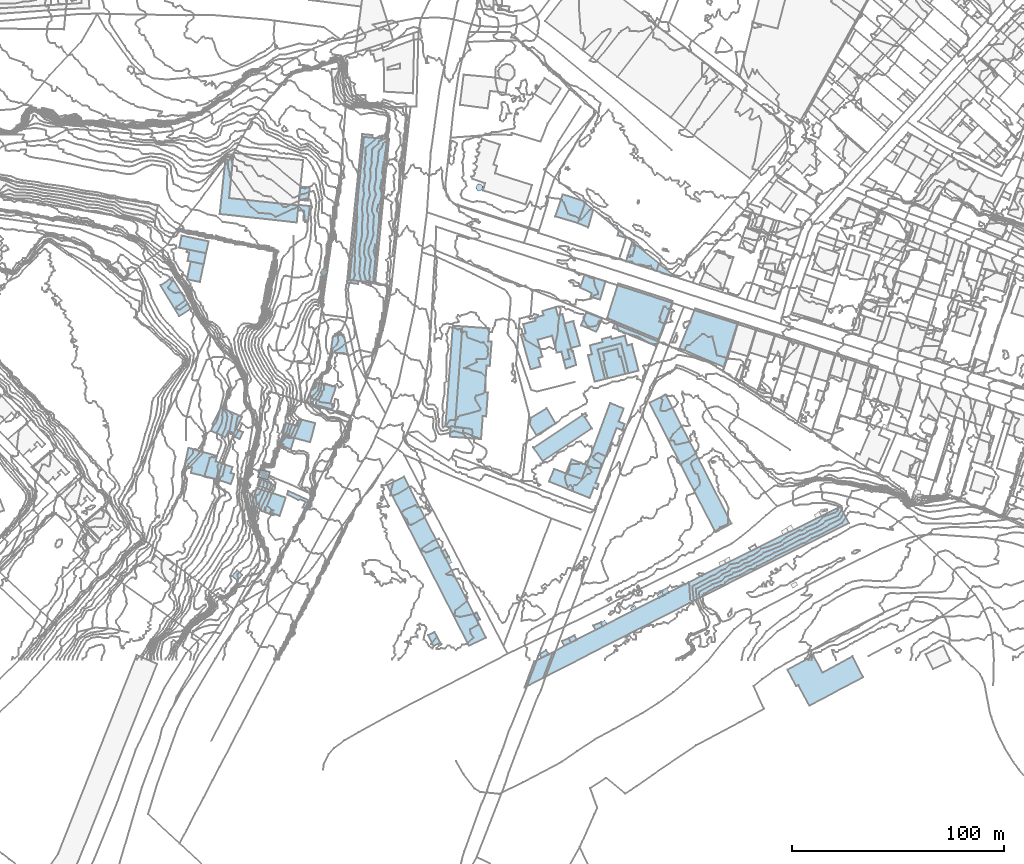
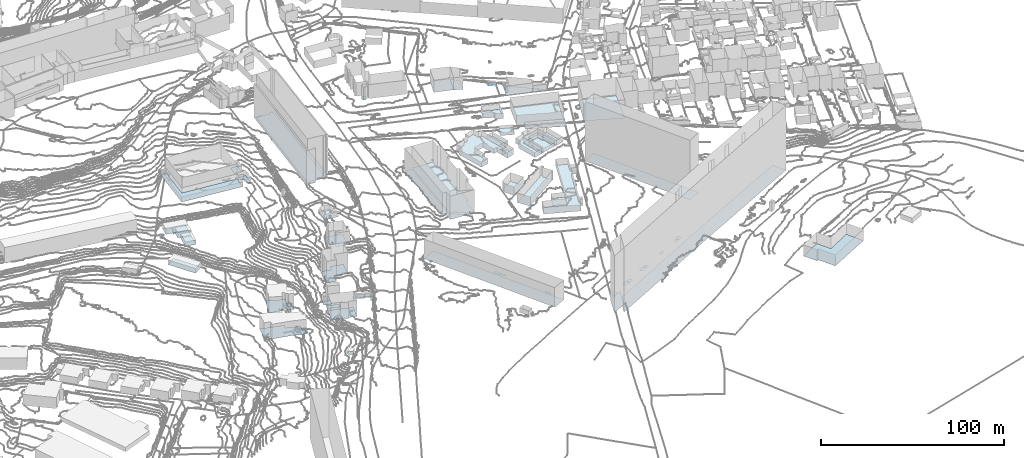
# Not in any storey, part 5 of 419: 62 footings.
"""IFC2X3 model written with IfcOpenShell, lengths in metres."""

from ifc_helpers import new_model, si_unit, frame, origin_with_axes, place, context, subcontext, project, faceted_brep, element, save


model = new_model("IFC2X3")

# Units and contexts
model_context = context("Model", 3, precision=1e-05, world=origin_with_axes())
body_context = subcontext(model_context, "Body", "Model", "MODEL_VIEW")
ifc_project = project(units=[si_unit("AREAUNIT", "SQUARE_METRE"), si_unit("LENGTHUNIT", "METRE")], contexts=[model_context])

# Footings
footing_1_placement = place(None, frame((775.4920204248, 16.0976909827, 70.1381985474), z_axis=(0.0, 0.0, 1.0), x_axis=(1.0, 0.0, 0.0)))
element("IfcFooting", 1, at=footing_1_placement, Name="Sol 0", PredefinedType="STRIP_FOOTING", context=body_context, shape_type="Brep", body=[
    faceted_brep([(3.0, -0.9000000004, 0.0), (0.7, -2.0, 0.0), (0.0, 0.0, 0.0), (1.7999999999, 1.0999999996, 0.0)], [[[0, 1, 2]], [[2, 3, 0]]]),
])
footing_2_placement = place(None, frame((766.0920204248, 156.0976909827, 75.7675977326), z_axis=(0.0, 0.0, 1.0), x_axis=(1.0, 0.0, 0.0)))
element("IfcFooting", 2, at=footing_2_placement, Name="Sol 0", PredefinedType="STRIP_FOOTING", context=body_context, shape_type="Brep", body=[
    faceted_brep([(0.0, 0.0, 0.0), (2.5, 6.0999999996, 0.0), (10.0, 3.2000000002, 0.0), (7.2, -3.0, 0.0)], [[[0, 1, 2]], [[2, 3, 0]]]),
])
footing_3_placement = place(None, frame((576.6920204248, 192.6976909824, 54.1280997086), z_axis=(0.0, 0.0, 1.0), x_axis=(1.0, 0.0, 0.0)))
element("IfcFooting", 3, at=footing_3_placement, Name="Sol 0", PredefinedType="STRIP_FOOTING", context=body_context, shape_type="Brep", body=[
    faceted_brep([(12.6, -2.5999999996, 0.0), (0.0, 0.0, 0.0), (1.1, 5.7000000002, 0.0), (13.8, 3.0, 0.0)], [[[0, 1, 2]], [[2, 3, 0]]]),
])
footing_4_placement = place(None, frame((765.6920204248, 173.8976909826, 76.811498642), z_axis=(0.0, 0.0, 1.0), x_axis=(1.0, 0.0, 0.0)))
element("IfcFooting", 4, at=footing_4_placement, Name="Sol 0", PredefinedType="STRIP_FOOTING", context=body_context, shape_type="Brep", body=[
    faceted_brep([(5.4, -2.5999999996, 0.0), (0.0, 0.0, 0.0), (2.1, 6.0999999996, 0.0), (9.4, -5.7000000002, 0.0), (5.0, -4.4000000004, 0.0), (12.0, 3.0, 0.0)], [[[0, 1, 2]], [[3, 4, 0]], [[2, 5, 3]], [[3, 0, 2]]]),
])
footing_5_placement = place(None, frame((632.5920204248, 210.3976909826, 59.9000015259), z_axis=(0.0, 0.0, 1.0), x_axis=(1.0, 0.0, 0.0)))
element("IfcFooting", 5, at=footing_5_placement, Name="Sol 0", PredefinedType="STRIP_FOOTING", context=body_context, shape_type="Brep", body=[
    faceted_brep([(0.0, 0.0, 0.0), (0.3, 2.5, 0.0), (5.7, 1.9000000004, 0.0), (4.9, -5.0, 0.0), (2.6, -4.7999999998, 0.0), (3.0, -0.2999999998, 0.0)], [[[0, 1, 2]], [[3, 4, 5]], [[5, 0, 2]], [[2, 3, 5]]]),
])
footing_6_placement = place(None, frame((757.0920204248, 7.1976909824, 70.2716003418), z_axis=(0.0, 0.0, 1.0), x_axis=(1.0, 0.0, 0.0)))
element("IfcFooting", 6, at=footing_6_placement, Name="Sol 0", PredefinedType="STRIP_FOOTING", context=body_context, shape_type="Brep", body=[
    faceted_brep([(4.3, -0.5999999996, 0.0), (1.2, -2.0999999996, 0.0), (0.0, 0.0, 0.0), (3.3, 1.4000000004, 0.0)], [[[0, 1, 2]], [[2, 3, 0]]]),
])
footing_7_placement = place(None, frame((694.0920204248, 9.9976909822, 71.9270027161), z_axis=(0.0, 0.0, 1.0), x_axis=(1.0, 0.0, 0.0)))
element("IfcFooting", 7, at=footing_7_placement, Name="Sol 0", PredefinedType="STRIP_FOOTING", context=body_context, shape_type="Brep", body=[
    faceted_brep([(5.6, -3.5, 0.0), (2.6, -5.0999999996, 0.0), (0.0, 0.0, 0.0), (3.0, 1.6000000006, 0.0)], [[[0, 1, 2]], [[2, 3, 0]]]),
])
footing_8_placement = place(None, frame((633.0920204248, 215.2976909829, 60.8579999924), z_axis=(0.0, 0.0, 1.0), x_axis=(1.0, 0.0, 0.0)))
element("IfcFooting", 8, at=footing_8_placement, Name="Sol 0", PredefinedType="STRIP_FOOTING", context=body_context, shape_type="Brep", body=[
    faceted_brep([(0.0, 0.0, 0.0), (0.7, 6.1999999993, 0.0), (5.1, 5.7999999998, 0.0), (4.4, -0.4000000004, 0.0)], [[[0, 1, 2]], [[2, 3, 0]]]),
])
footing_9_placement = place(None, frame((580.2920204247, 177.7976909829, 53.9178002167), z_axis=(0.0, 0.0, 1.0), x_axis=(1.0, 0.0, 0.0)))
element("IfcFooting", 9, at=footing_9_placement, Name="Sol 0", PredefinedType="STRIP_FOOTING", context=body_context, shape_type="Brep", body=[
    faceted_brep([(0.0, 0.0, 0.0), (1.8, 8.3999999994, 0.0), (7.9, 7.0999999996, 0.0), (6.1000000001, -1.3000000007, 0.0)], [[[0, 1, 2]], [[2, 3, 0]]]),
])
footing_10_placement = place(None, frame((580.1920204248, 190.5976909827, 54.1919986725), z_axis=(0.0, 0.0, 1.0), x_axis=(1.0, 0.0, 0.0)))
element("IfcFooting", 10, at=footing_10_placement, Name="Sol 0", PredefinedType="STRIP_FOOTING", context=body_context, shape_type="Brep", body=[
    faceted_brep([(0.0, 0.0, 0.0), (0.3, 1.2999999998, 0.0), (9.1, -0.5, 0.0), (8.0, -5.7000000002, 0.0), (0.4, -4.1000000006, 0.0), (1.2000000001, -0.2000000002, 0.0)], [[[0, 1, 2]], [[3, 4, 5]], [[5, 0, 2]], [[2, 3, 5]]]),
])
footing_11_placement = place(None, frame((627.4920204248, 76.2976909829, 64.1379997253), z_axis=(0.0, 0.0, 1.0), x_axis=(1.0, 0.0, 0.0)))
element("IfcFooting", 11, at=footing_11_placement, Name="Sol 0", PredefinedType="STRIP_FOOTING", context=body_context, shape_type="Brep", body=[
    faceted_brep([(10.7999999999, -3.0, 0.0), (8.9, -6.8000000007, 0.0), (7.4, -6.1000000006, 0.0), (0.0, 0.0, 0.0), (0.6, 1.6999999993, 0.0), (6.2, -2.3000000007, 0.0), (5.2999999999, -2.5, 0.0), (8.7, -3.4000000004, 0.0)], [[[0, 1, 2]], [[3, 4, 0]], [[5, 6, 3]], [[0, 2, 7]], [[5, 3, 0]], [[0, 7, 5]]]),
])
footing_12_placement = place(None, frame((700.3920204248, 49.5976909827, 72.1448019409), z_axis=(0.0, 0.0, 1.0), x_axis=(1.0, 0.0, 0.0)))
element("IfcFooting", 12, at=footing_12_placement, Name="Sol 0", PredefinedType="STRIP_FOOTING", context=body_context, shape_type="Brep", body=[
    faceted_brep([(1.7, -3.1000000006, 0.0), (0.0, 0.0, 0.0), (1.6, 0.7000000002, 0.0), (3.3999999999, -2.5, 0.0)], [[[0, 1, 2]], [[2, 3, 0]]]),
])
footing_13_placement = place(None, frame((773.9920204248, 144.7976909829, 75.1139984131), z_axis=(0.0, 0.0, 1.0), x_axis=(1.0, 0.0, 0.0)))
element("IfcFooting", 13, at=footing_13_placement, Name="Sol 0", PredefinedType="STRIP_FOOTING", context=body_context, shape_type="Brep", body=[
    faceted_brep([(4.7999999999, -13.6000000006, 0.0), (3.5, -14.0, 0.0), (0.0, 0.0, 0.0), (2.5, -1.4000000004, 0.0), (3.5, -5.3000000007, 0.0), (2.7, -5.5, 0.0), (11.0, -3.4000000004, 0.0), (10.2, -3.6000000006, 0.0), (9.2999999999, 0.2999999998, 0.0), (14.6, -11.2000000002, 0.0), (13.0, -11.6000000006, 0.0), (11.1, 2.7999999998, 0.0)], [[[0, 1, 2]], [[3, 4, 5]], [[6, 7, 8]], [[9, 10, 6]], [[5, 0, 2]], [[9, 6, 8]], [[3, 5, 2]], [[11, 9, 8]], [[3, 2, 11]], [[11, 8, 3]]]),
])
footing_14_placement = place(None, frame((753.9920204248, 207.4976909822, 77.5985978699), z_axis=(0.0, 0.0, 1.0), x_axis=(1.0, 0.0, 0.0)))
element("IfcFooting", 14, at=footing_14_placement, Name="Sol 0", PredefinedType="STRIP_FOOTING", context=body_context, shape_type="Brep", body=[
    faceted_brep([(0.0, 0.0, 0.0), (3.5, 10.4000000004, 0.0), (14.2, 6.8000000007, 0.0), (10.6, -3.1999999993, 0.0)], [[[0, 1, 2]], [[2, 3, 0]]]),
])
footing_15_placement = place(None, frame((787.2920204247, 186.2976909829, 76.8846023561), z_axis=(0.0, 0.0, 1.0), x_axis=(1.0, 0.0, 0.0)))
element("IfcFooting", 15, at=footing_15_placement, Name="Sol 0", PredefinedType="STRIP_FOOTING", context=body_context, shape_type="Brep", body=[
    faceted_brep([(14.4, -4.5, 0.0), (0.0, 0.0, 0.0), (0.8, 2.3999999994, 0.0), (4.6000000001, 7.8999999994, 0.0), (15.5, -1.1000000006, 0.0), (1.9, 2.0, 0.0), (2.2000000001, 3.0, 0.0), (3.1000000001, 2.5999999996, 0.0)], [[[0, 1, 2]], [[3, 4, 0]], [[5, 6, 7]], [[0, 2, 5]], [[7, 3, 0]], [[0, 5, 7]]]),
])
footing_16_placement = place(None, frame((579.1920204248, 89.7976909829, 46.9288002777), z_axis=(0.0, 0.0, 1.0), x_axis=(1.0, 0.0, 0.0)))
element("IfcFooting", 16, at=footing_16_placement, Name="Sol 0", PredefinedType="STRIP_FOOTING", context=body_context, shape_type="Brep", body=[
    faceted_brep([(14.2000000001, -6.0, 0.0), (3.0, -3.3000000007, 0.0), (3.5, -0.8000000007, 0.0), (23.4, -3.9000000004, 0.0), (21.8, -8.6000000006, 0.0), (14.6, 2.1999999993, 0.0), (22.6, -0.6000000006, 0.0), (21.7000000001, -3.3000000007, 0.0), (1.8, 8.5, 0.0), (15.3, 4.6999999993, 0.0), (0.0, 0.0, 0.0)], [[[0, 1, 2]], [[3, 4, 0]], [[5, 6, 7]], [[8, 9, 5]], [[2, 10, 8]], [[3, 0, 2]], [[8, 5, 7]], [[7, 3, 2]], [[2, 8, 7]]]),
])
footing_17_placement = place(None, frame((595.7920204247, 208.5976909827, 59.3163995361), z_axis=(0.0, 0.0, 1.0), x_axis=(1.0, 0.0, 0.0)))
element("IfcFooting", 17, at=footing_17_placement, Name="Sol 0", PredefinedType="STRIP_FOOTING", context=body_context, shape_type="Brep", body=[
    faceted_brep([(0.0, 0.0, 0.0), (2.9, 28.0999999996, 0.0), (6.4, 27.7999999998, 0.0), (37.1000000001, 4.0, 0.0), (36.3, -4.0, 0.0), (4.4, 7.5, 0.0)], [[[0, 1, 2]], [[3, 4, 0]], [[0, 2, 5]], [[5, 3, 0]]]),
])
footing_18_placement = place(None, frame((643.3920204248, 180.3976909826, 63.0056015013), z_axis=(0.0, 0.0, 1.0), x_axis=(1.0, 0.0, 0.0)))
element("IfcFooting", 18, at=footing_18_placement, Name="Sol 0", PredefinedType="STRIP_FOOTING", context=body_context, shape_type="Brep", body=[
    faceted_brep([(0.3999999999, 2.2000000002, 0.0), (3.2, 1.7000000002, 0.0), (2.7999999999, -0.5, 0.0), (0.0, 0.0, 0.0)], [[[0, 1, 2]], [[2, 3, 0]]]),
])
footing_19_placement = place(None, frame((623.9920204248, 99.1976909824, 61.9557989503), z_axis=(0.0, 0.0, 1.0), x_axis=(1.0, 0.0, 0.0)))
element("IfcFooting", 19, at=footing_19_placement, Name="Sol 0", PredefinedType="STRIP_FOOTING", context=body_context, shape_type="Brep", body=[
    faceted_brep([(9.2999999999, 12.7000000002, 0.0), (16.7999999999, 10.7999999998, 0.0), (14.4, 1.7999999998, 0.0), (2.7999999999, 10.0, 0.0), (3.1, 10.9000000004, 0.0), (8.2999999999, 9.5, 0.0), (1.0, 6.2999999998, 0.0), (2.2, 10.1000000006, 0.0), (5.2999999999, -1.5, 0.0), (0.0, 0.0, 0.0), (1.7, 6.1000000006, 0.0), (6.9, 3.7999999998, 0.0)], [[[0, 1, 2]], [[3, 4, 5]], [[6, 7, 3]], [[8, 9, 10]], [[0, 2, 11]], [[6, 3, 5]], [[11, 8, 10]], [[5, 0, 11]], [[10, 6, 5]], [[5, 11, 10]]]),
])
footing_20_placement = place(None, frame((702.0920204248, 46.4976909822, 72.1290023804), z_axis=(0.0, 0.0, 1.0), x_axis=(1.0, 0.0, 0.0)))
element("IfcFooting", 20, at=footing_20_placement, Name="Sol 0", PredefinedType="STRIP_FOOTING", context=body_context, shape_type="Brep", body=[
    faceted_brep([(1.6, -2.7999999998, 0.0), (0.0, 0.0, 0.0), (1.7, 0.6000000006, 0.0), (3.2, -2.0999999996, 0.0)], [[[0, 1, 2]], [[2, 3, 0]]]),
])
footing_21_placement = place(None, frame((746.6920204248, 1.0976909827, 70.5879999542), z_axis=(0.0, 0.0, 1.0), x_axis=(1.0, 0.0, 0.0)))
element("IfcFooting", 21, at=footing_21_placement, Name="Sol 0", PredefinedType="STRIP_FOOTING", context=body_context, shape_type="Brep", body=[
    faceted_brep([(0.8, -1.7000000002, 0.0), (0.0, 0.0, 0.0), (2.9, 1.7999999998, 0.0), (4.2000000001, 0.2000000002, 0.0)], [[[0, 1, 2]], [[2, 3, 0]]]),
])
footing_22_placement = place(None, frame((760.3920204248, 8.5976909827, 70.1712017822), z_axis=(0.0, 0.0, 1.0), x_axis=(1.0, 0.0, 0.0)))
element("IfcFooting", 22, at=footing_22_placement, Name="Sol 0", PredefinedType="STRIP_FOOTING", context=body_context, shape_type="Brep", body=[
    faceted_brep([(3.7999999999, -0.7000000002, 0.0), (1.0, -2.0, 0.0), (0.0, 0.0, 0.0), (2.6, 1.3999999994, 0.0)], [[[0, 1, 2]], [[2, 3, 0]]]),
])
footing_23_placement = place(None, frame((610.4920204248, 70.8976909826, 59.464500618), z_axis=(0.0, 0.0, 1.0), x_axis=(1.0, 0.0, 0.0)))
element("IfcFooting", 23, at=footing_23_placement, Name="Sol 0", PredefinedType="STRIP_FOOTING", context=body_context, shape_type="Brep", body=[
    faceted_brep([(0.0, 0.0, 0.0), (2.7, 8.4000000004, 0.0), (16.4, 4.0, 0.0), (8.7999999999, -3.7000000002, 0.0), (4.5, -2.2000000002, 0.0), (4.7, -1.5999999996, 0.0), (13.5, -4.5999999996, 0.0), (9.0, -3.0, 0.0)], [[[0, 1, 2]], [[3, 4, 5]], [[2, 6, 7]], [[5, 0, 2]], [[7, 3, 5]], [[5, 2, 7]]]),
])
footing_24_placement = place(None, frame((812.4920204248, 145.2976909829, 75.759199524), z_axis=(0.0, 0.0, 1.0), x_axis=(1.0, 0.0, 0.0)))
element("IfcFooting", 24, at=footing_24_placement, Name="Sol 0", PredefinedType="STRIP_FOOTING", context=body_context, shape_type="Brep", body=[
    faceted_brep([(27.6, 12.2999999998, 0.0), (20.9, -8.8000000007, 0.0), (0.0, 0.0, 0.0), (7.4, 18.7999999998, 0.0)], [[[0, 1, 2]], [[2, 3, 0]]]),
])
footing_25_placement = place(None, frame((778.4920204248, 159.4976909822, 76.3899993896), z_axis=(0.0, 0.0, 1.0), x_axis=(1.0, 0.0, 0.0)))
element("IfcFooting", 25, at=footing_25_placement, Name="Sol 0", PredefinedType="STRIP_FOOTING", context=body_context, shape_type="Brep", body=[
    faceted_brep([(24.1, -10.0999999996, 0.0), (0.0, 0.0, 0.0), (5.1, 16.4000000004, 0.0), (30.9, 8.1000000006, 0.0)], [[[0, 1, 2]], [[2, 3, 0]]]),
])
footing_26_placement = place(None, frame((601.4920204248, 37.9976909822, 59.4713992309), z_axis=(0.0, 0.0, 1.0), x_axis=(1.0, 0.0, 0.0)))
element("IfcFooting", 26, at=footing_26_placement, Name="Sol 0", PredefinedType="STRIP_FOOTING", context=body_context, shape_type="Brep", body=[
    faceted_brep([(4.9, 0.3000000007, 0.0), (2.4, -2.0999999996, 0.0), (0.0, 0.0, 0.0), (2.5, 2.4000000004, 0.0)], [[[0, 1, 2]], [[2, 3, 0]]]),
])
footing_27_placement = place(None, frame((613.7920204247, 84.6976909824, 59.4539994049), z_axis=(0.0, 0.0, 1.0), x_axis=(1.0, 0.0, 0.0)))
element("IfcFooting", 27, at=footing_27_placement, Name="Sol 0", PredefinedType="STRIP_FOOTING", context=body_context, shape_type="Brep", body=[
    faceted_brep([(0.0, 0.0, 0.0), (1.0, 3.5, 0.0), (5.5, 2.2000000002, 0.0), (4.5, -1.2999999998, 0.0)], [[[0, 1, 2]], [[2, 3, 0]]]),
])
footing_28_placement = place(None, frame((613.5920204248, 80.5976909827, 59.6855998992), z_axis=(0.0, 0.0, 1.0), x_axis=(1.0, 0.0, 0.0)))
element("IfcFooting", 28, at=footing_28_placement, Name="Sol 0", PredefinedType="STRIP_FOOTING", context=body_context, shape_type="Brep", body=[
    faceted_brep([(0.0, 0.0, 0.0), (0.9, 3.2000000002, 0.0), (7.6, 0.2999999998, 0.0), (6.5, -2.4000000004, 0.0)], [[[0, 1, 2]], [[2, 3, 0]]]),
])
footing_29_placement = place(None, frame((804.1920204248, 30.5976909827, 70.0514993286), z_axis=(0.0, 0.0, 1.0), x_axis=(1.0, 0.0, 0.0)))
element("IfcFooting", 29, at=footing_29_placement, Name="Sol 0", PredefinedType="STRIP_FOOTING", context=body_context, shape_type="Brep", body=[
    faceted_brep([(2.3, 1.5, 0.0), (3.5, -0.5, 0.0), (0.9, -1.9000000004, 0.0), (0.0, 0.0, 0.0)], [[[0, 1, 2]], [[2, 3, 0]]]),
])
footing_30_placement = place(None, frame((801.8920204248, 28.9976909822, 70.0737995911), z_axis=(0.0, 0.0, 1.0), x_axis=(1.0, 0.0, 0.0)))
element("IfcFooting", 30, at=footing_30_placement, Name="Sol 0", PredefinedType="STRIP_FOOTING", context=body_context, shape_type="Brep", body=[
    faceted_brep([(2.2999999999, 1.6000000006, 0.0), (3.2, -0.2999999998, 0.0), (0.7999999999, -1.5999999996, 0.0), (0.0, 0.0, 0.0)], [[[0, 1, 2]], [[2, 3, 0]]]),
])
footing_31_placement = place(None, frame((789.2920204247, 22.8976909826, 70.1088000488), z_axis=(0.0, 0.0, 1.0), x_axis=(1.0, 0.0, 0.0)))
element("IfcFooting", 31, at=footing_31_placement, Name="Sol 0", PredefinedType="STRIP_FOOTING", context=body_context, shape_type="Brep", body=[
    faceted_brep([(3.1000000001, -0.5, 0.0), (0.6000000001, -1.7000000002, 0.0), (0.0, 0.0, 0.0), (2.1000000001, 1.2999999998, 0.0)], [[[0, 1, 2]], [[2, 3, 0]]]),
])
footing_32_placement = place(None, frame((801.6920204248, 181.7976909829, 76.7789985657), z_axis=(0.0, 0.0, 1.0), x_axis=(1.0, 0.0, 0.0)))
element("IfcFooting", 32, at=footing_32_placement, Name="Sol 0", PredefinedType="STRIP_FOOTING", context=body_context, shape_type="Brep", body=[
    faceted_brep([(7.0, -2.4000000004, 0.0), (0.0, 0.0, 0.0), (1.1, 3.3999999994, 0.0), (7.6, -1.7000000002, 0.0)], [[[0, 1, 2]], [[2, 3, 0]]]),
])
footing_33_placement = place(None, frame((776.4920204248, 143.3976909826, 75.1452017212), z_axis=(0.0, 0.0, 1.0), x_axis=(1.0, 0.0, 0.0)))
element("IfcFooting", 33, at=footing_33_placement, Name="Sol 0", PredefinedType="STRIP_FOOTING", context=body_context, shape_type="Brep", body=[
    faceted_brep([(10.5, -10.2000000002, 0.0), (2.2999999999, -12.2000000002, 0.0), (0.2, -4.0999999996, 0.0), (7.7, -2.2000000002, 0.0), (8.5, -2.0, 0.0), (0.0, 0.0, 0.0), (6.7999999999, 1.7000000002, 0.0), (1.0, -3.9000000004, 0.0)], [[[0, 1, 2]], [[3, 4, 0]], [[5, 6, 3]], [[0, 2, 7]], [[5, 3, 0]], [[0, 7, 5]]]),
])
footing_34_placement = place(None, frame((769.3920204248, 141.9976909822, 75.0448005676), z_axis=(0.0, 0.0, 1.0), x_axis=(1.0, 0.0, 0.0)))
element("IfcFooting", 34, at=footing_34_placement, Name="Sol 0", PredefinedType="STRIP_FOOTING", context=body_context, shape_type="Brep", body=[
    faceted_brep([(4.6, 2.8000000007, 0.0), (8.1, -11.1999999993, 0.0), (3.2, -12.3999999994, 0.0), (23.8999999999, -7.1999999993, 0.0), (19.2, -8.3999999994, 0.0), (15.7, 5.6000000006, 0.0), (18.6, 4.7000000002, 0.0), (20.7, 5.3000000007, 0.0), (11.2999999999, 7.7000000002, 0.0), (17.3999999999, 9.3000000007, 0.0), (6.6, 7.7000000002, 0.0), (11.0, 8.8000000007, 0.0), (1.8999999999, 0.5, 0.0), (0.8999999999, 4.7000000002, 0.0), (7.0, 6.3000000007, 0.0), (0.0, 0.0, 0.0)], [[[0, 1, 2]], [[3, 4, 5]], [[6, 7, 3]], [[8, 9, 6]], [[10, 11, 8]], [[12, 13, 14]], [[2, 15, 12]], [[6, 3, 5]], [[14, 10, 8]], [[0, 2, 12]], [[8, 6, 5]], [[0, 12, 14]], [[8, 5, 0]], [[0, 14, 8]]]),
])
footing_35_placement = place(None, frame((788.0920204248, 188.6976909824, 77.1070014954), z_axis=(0.0, 0.0, 1.0), x_axis=(1.0, 0.0, 0.0)))
element("IfcFooting", 35, at=footing_35_placement, Name="Sol 0", PredefinedType="STRIP_FOOTING", context=body_context, shape_type="Brep", body=[
    faceted_brep([(1.1, -0.3999999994, 0.0), (0.0, 0.0, 0.0), (2.2, 6.7999999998, 0.0), (3.7, 4.7000000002, 0.0), (2.3, 0.2000000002, 0.0), (1.4, 0.6000000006, 0.0), (3.1, 6.1000000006, 0.0), (2.7, 4.9000000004, 0.0)], [[[0, 1, 2]], [[3, 4, 5]], [[2, 6, 7]], [[5, 0, 2]], [[7, 3, 5]], [[5, 2, 7]]]),
])
footing_36_placement = place(None, frame((741.8920204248, 109.6976909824, 74.6950004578), z_axis=(0.0, 0.0, 1.0), x_axis=(1.0, 0.0, 0.0)))
element("IfcFooting", 36, at=footing_36_placement, Name="Sol 0", PredefinedType="STRIP_FOOTING", context=body_context, shape_type="Brep", body=[
    faceted_brep([(12.2999999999, 0.2000000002, 0.0), (3.2, -5.2999999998, 0.0), (0.0, 0.0, 0.0), (0.6, 2.9000000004, 0.0), (8.1, 7.4000000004, 0.0)], [[[0, 1, 2]], [[3, 4, 0]], [[0, 2, 3]]]),
])
footing_37_placement = place(None, frame((863.4920204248, -6.2023090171, 59.9319992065), z_axis=(0.0, 0.0, 1.0), x_axis=(1.0, 0.0, 0.0)))
element("IfcFooting", 37, at=footing_37_placement, Name="Sol 0", PredefinedType="STRIP_FOOTING", context=body_context, shape_type="Brep", body=[
    faceted_brep([(30.6, 6.2999999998, 0.0), (35.7, -3.6000000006, 0.0), (10.2999999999, -16.9000000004, 0.0), (0.0, 0.0, 0.0), (12.2, 6.6999999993, 0.0), (16.5, -1.4000000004, 0.0), (5.1, -7.3000000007, 0.0), (4.1, -7.8000000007, 0.0)], [[[0, 1, 2]], [[3, 4, 5]], [[6, 7, 3]], [[5, 0, 2]], [[6, 3, 5]], [[5, 2, 6]]]),
])
footing_38_placement = place(None, frame((668.0920204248, 176.0976909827, 71.9225025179), z_axis=(0.0, 0.0, 1.0), x_axis=(1.0, 0.0, 0.0)))
element("IfcFooting", 38, at=footing_38_placement, Name="Sol 0", PredefinedType="STRIP_FOOTING", context=body_context, shape_type="Brep", body=[
    faceted_brep([(0.0, 0.0, 0.0), (6.5, 67.8999999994, 0.0), (7.5, 67.7999999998, 0.0), (1.0, -0.1000000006, 0.0)], [[[0, 1, 2]], [[2, 3, 0]]]),
])
footing_39_placement = place(None, frame((764.5920204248, 204.2976909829, 77.4841980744), z_axis=(0.0, 0.0, 1.0), x_axis=(1.0, 0.0, 0.0)))
element("IfcFooting", 39, at=footing_39_placement, Name="Sol 0", PredefinedType="STRIP_FOOTING", context=body_context, shape_type="Brep", body=[
    faceted_brep([(0.0, 0.0, 0.0), (3.6, 10.0, 0.0), (7.2, 6.0999999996, 0.0), (4.9, -2.0, 0.0)], [[[0, 1, 2]], [[2, 3, 0]]]),
])
footing_40_placement = place(None, frame((758.2920204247, 156.9976909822, 75.5342018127), z_axis=(0.0, 0.0, 1.0), x_axis=(1.0, 0.0, 0.0)))
element("IfcFooting", 40, at=footing_40_placement, Name="Sol 0", PredefinedType="STRIP_FOOTING", context=body_context, shape_type="Brep", body=[
    faceted_brep([(3.2000000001, -11.5, 0.0), (0.0, 0.0, 0.0), (4.2000000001, 1.2000000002, 0.0), (7.4, -10.3999999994, 0.0)], [[[0, 1, 2]], [[2, 3, 0]]]),
])
footing_41_placement = place(None, frame((783.2920204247, 198.4976909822, 77.4196013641), z_axis=(0.0, 0.0, 1.0), x_axis=(1.0, 0.0, 0.0)))
element("IfcFooting", 41, at=footing_41_placement, Name="Sol 0", PredefinedType="STRIP_FOOTING", context=body_context, shape_type="Brep", body=[
    faceted_brep([(4.2000000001, -0.6999999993, 0.0), (4.0, -1.2999999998, 0.0), (0.0, 0.0, 0.0), (0.6000000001, 2.2000000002, 0.0)], [[[0, 1, 2]], [[2, 3, 0]]]),
])
footing_42_placement = place(None, frame((716.4920204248, 221.2976909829, 78.1391992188), z_axis=(0.0, 0.0, 1.0), x_axis=(1.0, 0.0, 0.0)))
element("IfcFooting", 42, at=footing_42_placement, Name="Sol 0", PredefinedType="STRIP_FOOTING", context=body_context, shape_type="Brep", body=[
    faceted_brep([(1.4, 1.6999999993, 0.0), (2.7999999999, 1.1999999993, 0.0), (3.2, 0.2999999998, 0.0), (0.0, 0.0, 0.0), (0.7, 1.3999999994, 0.0), (1.2, -1.8000000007, 0.0), (0.5, -1.4000000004, 0.0), (2.9, -1.3000000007, 0.0)], [[[0, 1, 2]], [[3, 4, 0]], [[5, 6, 3]], [[2, 7, 5]], [[3, 0, 2]], [[2, 5, 3]]]),
])
footing_43_placement = place(None, frame((715.4920204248, 19.9976909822, 71.8315977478), z_axis=(0.0, 0.0, 1.0), x_axis=(1.0, 0.0, 0.0)))
element("IfcFooting", 43, at=footing_43_placement, Name="Sol 0", PredefinedType="STRIP_FOOTING", context=body_context, shape_type="Brep", body=[
    faceted_brep([(1.4, 0.8000000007, 0.0), (3.1, -2.5, 0.0), (1.7, -3.0999999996, 0.0), (0.0, 0.0, 0.0)], [[[0, 1, 2]], [[2, 3, 0]]]),
])
footing_44_placement = place(None, frame((648.0920204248, 143.3976909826, 68.536000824), z_axis=(0.0, 0.0, 1.0), x_axis=(1.0, 0.0, 0.0)))
element("IfcFooting", 44, at=footing_44_placement, Name="Sol 0", PredefinedType="STRIP_FOOTING", context=body_context, shape_type="Brep", body=[
    faceted_brep([(6.6, 6.5, 0.0), (8.1, -1.0, 0.0), (0.0, 0.0, 0.0), (1.1, 7.5, 0.0), (5.0, 8.4000000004, 0.0)], [[[0, 1, 2]], [[3, 4, 0]], [[0, 2, 3]]]),
])
footing_45_placement = place(None, frame((655.7920204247, 176.1976909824, 69.400798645), z_axis=(0.0, 0.0, 1.0), x_axis=(1.0, 0.0, 0.0)))
element("IfcFooting", 45, at=footing_45_placement, Name="Sol 0", PredefinedType="STRIP_FOOTING", context=body_context, shape_type="Brep", body=[
    faceted_brep([(12.0, 69.6000000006, 0.0), (11.9, 68.4000000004, 0.0), (8.0, 68.7000000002, 0.0), (5.4, 0.7999999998, 0.0), (5.2000000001, -0.5, 0.0), (0.0, 0.0, 0.0), (7.2000000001, 70.1000000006, 0.0), (1.2000000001, 1.2999999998, 0.0)], [[[0, 1, 2]], [[3, 4, 5]], [[6, 0, 2]], [[7, 3, 5]], [[6, 2, 7]], [[7, 5, 6]]]),
])
footing_46_placement = place(None, frame((591.5920204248, 106.2976909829, 48.8435992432), z_axis=(0.0, 0.0, 1.0), x_axis=(1.0, 0.0, 0.0)))
element("IfcFooting", 46, at=footing_46_placement, Name="Sol 0", PredefinedType="STRIP_FOOTING", context=body_context, shape_type="Brep", body=[
    faceted_brep([(1.4, 3.0, 0.0), (0.8, 3.2999999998, 0.0), (2.2, 5.8999999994, 0.0), (6.8, -3.0, 0.0), (0.0, 0.0, 0.0), (11.0, -2.1000000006, 0.0), (9.6, -1.4000000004, 0.0), (9.9, -0.7000000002, 0.0), (13.6, -3.7000000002, 0.0), (10.8, -2.7000000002, 0.0), (11.9, 0.6999999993, 0.0), (15.1, -0.6000000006, 0.0), (4.7, 11.0, 0.0), (14.7, 6.6999999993, 0.0), (8.3, 0.0, 0.0)], [[[0, 1, 2]], [[3, 4, 0]], [[5, 6, 7]], [[8, 9, 5]], [[10, 11, 8]], [[12, 13, 10]], [[0, 2, 12]], [[14, 3, 0]], [[8, 5, 7]], [[12, 10, 8]], [[14, 0, 12]], [[12, 8, 7]], [[7, 14, 12]]]),
])
footing_47_placement = place(None, frame((757.9920204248, 139.6976909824, 75.5514982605), z_axis=(0.0, 0.0, 1.0), x_axis=(1.0, 0.0, 0.0)))
element("IfcFooting", 47, at=footing_47_placement, Name="Sol 0", PredefinedType="STRIP_FOOTING", context=body_context, shape_type="Brep", body=[
    faceted_brep([(1.0, -3.8999999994, 0.0), (0.0, 0.0, 0.0), (2.9, 0.7999999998, 0.0), (4.2999999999, 4.2000000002, 0.0), (5.9, -2.2000000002, 0.0), (1.7999999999, 4.9000000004, 0.0), (3.6, 5.4000000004, 0.0), (3.7999999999, 4.1000000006, 0.0)], [[[0, 1, 2]], [[3, 4, 0]], [[5, 6, 7]], [[3, 0, 2]], [[2, 5, 7]], [[7, 3, 2]]]),
])
footing_48_placement = place(None, frame((771.8920204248, 14.5976909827, 70.1153973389), z_axis=(0.0, 0.0, 1.0), x_axis=(1.0, 0.0, 0.0)))
element("IfcFooting", 48, at=footing_48_placement, Name="Sol 0", PredefinedType="STRIP_FOOTING", context=body_context, shape_type="Brep", body=[
    faceted_brep([(3.6, 1.5, 0.0), (4.2999999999, -0.5, 0.0), (1.2999999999, -2.0, 0.0), (0.0, 0.0, 0.0)], [[[0, 1, 2]], [[2, 3, 0]]]),
])
footing_49_placement = place(None, frame((781.1920204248, 154.8976909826, 75.5269006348), z_axis=(0.0, 0.0, 1.0), x_axis=(1.0, 0.0, 0.0)))
element("IfcFooting", 49, at=footing_49_placement, Name="Sol 0", PredefinedType="STRIP_FOOTING", context=body_context, shape_type="Brep", body=[
    faceted_brep([(0.0, 0.0, 0.0), (1.1, 2.7000000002, 0.0), (21.4, -5.5, 0.0), (20.3, -8.5999999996, 0.0)], [[[0, 1, 2]], [[2, 3, 0]]]),
])
footing_50_placement = place(None, frame((758.8920204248, 86.2976909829, 73.9479999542), z_axis=(0.0, 0.0, 1.0), x_axis=(1.0, 0.0, 0.0)))
element("IfcFooting", 50, at=footing_50_placement, Name="Sol 0", PredefinedType="STRIP_FOOTING", context=body_context, shape_type="Brep", body=[
    faceted_brep([(7.6, -2.7000000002, 0.0), (0.0, 0.0, 0.0), (2.7999999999, 6.5999999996, 0.0), (10.0, 3.7999999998, 0.0)], [[[0, 1, 2]], [[2, 3, 0]]]),
])
footing_51_placement = place(None, frame((674.6920204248, 80.6976909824, 71.4930007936), z_axis=(0.0, 0.0, 1.0), x_axis=(1.0, 0.0, 0.0)))
element("IfcFooting", 51, at=footing_51_placement, Name="Sol 0", PredefinedType="STRIP_FOOTING", context=body_context, shape_type="Brep", body=[
    faceted_brep([(8.0, 4.1000000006, 0.0), (11.0, -1.7000000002, 0.0), (46.6, -71.7999999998, 0.0), (38.6, -75.5999999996, 0.0), (0.0, 0.0, 0.0)], [[[0, 1, 2]], [[3, 4, 0]], [[0, 2, 3]]]),
])
footing_52_placement = place(None, frame((743.4920204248, 98.7976909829, 73.9909980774), z_axis=(0.0, 0.0, 1.0), x_axis=(1.0, 0.0, 0.0)))
element("IfcFooting", 52, at=footing_52_placement, Name="Sol 0", PredefinedType="STRIP_FOOTING", context=body_context, shape_type="Brep", body=[
    faceted_brep([(24.4, 14.0, 0.0), (27.9, 8.5999999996, 0.0), (27.2999999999, 8.5999999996, 0.0), (24.7, 16.0, 0.0), (25.5, 14.6999999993, 0.0), (23.1, 14.8999999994, 0.0), (23.2, 15.5999999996, 0.0), (23.5, 15.1999999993, 0.0), (4.7, -6.9000000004, 0.0), (0.0, 0.0, 0.0), (0.5, -0.2000000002, 0.0), (4.7999999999, -6.5, 0.0)], [[[0, 1, 2]], [[3, 4, 0]], [[5, 6, 7]], [[8, 9, 10]], [[0, 2, 11]], [[7, 3, 0]], [[11, 8, 10]], [[7, 0, 11]], [[11, 10, 5]], [[5, 7, 11]]]),
])
footing_53_placement = place(None, frame((638.2920204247, 123.6976909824, 68.2908021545), z_axis=(0.0, 0.0, 1.0), x_axis=(1.0, 0.0, 0.0)))
element("IfcFooting", 53, at=footing_53_placement, Name="Sol 0", PredefinedType="STRIP_FOOTING", context=body_context, shape_type="Brep", body=[
    faceted_brep([(6.8, 5.0, 0.0), (12.2000000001, 3.4000000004, 0.0), (9.7000000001, -4.2999999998, 0.0), (2.5, 2.7999999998, 0.0), (3.4, 5.4000000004, 0.0), (6.7000000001, 4.6000000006, 0.0), (1.6000000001, 2.2000000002, 0.0), (1.9, 3.0, 0.0), (0.0, 0.0, 0.0), (0.6000000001, 1.9000000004, 0.0), (3.3, -2.7999999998, 0.0), (0.2000000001, -1.8999999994, 0.0), (0.5, -1.0, 0.0), (10.3, -7.2000000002, 0.0), (2.6000000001, -5.0999999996, 0.0), (11.1000000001, -4.7999999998, 0.0)], [[[0, 1, 2]], [[3, 4, 5]], [[6, 7, 3]], [[8, 9, 6]], [[10, 11, 12]], [[13, 14, 10]], [[2, 15, 13]], [[5, 0, 2]], [[6, 3, 5]], [[12, 8, 6]], [[13, 10, 12]], [[5, 2, 13]], [[12, 6, 5]], [[5, 13, 12]]]),
])
footing_54_placement = place(None, frame((567.7920204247, 174.9976909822, 47.8444007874), z_axis=(0.0, 0.0, 1.0), x_axis=(1.0, 0.0, 0.0)))
element("IfcFooting", 54, at=footing_54_placement, Name="Sol 0", PredefinedType="STRIP_FOOTING", context=body_context, shape_type="Brep", body=[
    faceted_brep([(5.6000000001, 3.7000000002, 0.0), (14.5, -10.8999999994, 0.0), (8.9, -14.5999999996, 0.0), (0.0, 0.0, 0.0)], [[[0, 1, 2]], [[2, 3, 0]]]),
])
footing_55_placement = place(None, frame((656.9920204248, 177.4976909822, 69.8758000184), z_axis=(0.0, 0.0, 1.0), x_axis=(1.0, 0.0, 0.0)))
element("IfcFooting", 55, at=footing_55_placement, Name="Sol 0", PredefinedType="STRIP_FOOTING", context=body_context, shape_type="Brep", body=[
    faceted_brep([(16.9, 66.6000000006, 0.0), (17.6, 66.5, 0.0), (11.1, -1.3999999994, 0.0), (15.4, 68.1000000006, 0.0), (17.0, 68.0, 0.0), (0.0, 0.0, 0.0), (6.7999999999, 67.4000000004, 0.0), (15.2999999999, 66.7000000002, 0.0), (10.1, -2.2999999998, 0.0), (8.9, -2.1999999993, 0.0), (9.1, -1.0999999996, 0.0), (10.2, -1.2999999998, 0.0)], [[[0, 1, 2]], [[3, 4, 0]], [[5, 6, 7]], [[8, 9, 10]], [[0, 2, 11]], [[7, 3, 0]], [[10, 5, 7]], [[11, 8, 10]], [[7, 0, 11]], [[11, 10, 7]]]),
])
footing_56_placement = place(None, frame((739.4920204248, -14.6023090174, 70.4319984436), z_axis=(0.0, 0.0, 1.0), x_axis=(1.0, 0.0, 0.0)))
element("IfcFooting", 56, at=footing_56_placement, Name="Sol 0", PredefinedType="STRIP_FOOTING", context=body_context, shape_type="Brep", body=[
    faceted_brep([(4.5, 12.2000000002, 0.0), (13.2999999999, 16.5, 0.0), (8.7, 4.5, 0.0), (0.0, 0.0, 0.0)], [[[0, 1, 2]], [[2, 3, 0]]]),
])
footing_57_placement = place(None, frame((748.1920204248, -10.1023090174, 65.1494976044), z_axis=(0.0, 0.0, 1.0), x_axis=(1.0, 0.0, 0.0)))
element("IfcFooting", 57, at=footing_57_placement, Name="Sol 0", PredefinedType="STRIP_FOOTING", context=body_context, shape_type="Brep", body=[
    faceted_brep([(0.0, 0.0, 0.0), (4.6, 12.0, 0.0), (10.1, 15.2000000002, 0.0), (140.2000000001, 80.7999999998, 0.0), (144.3, 73.0, 0.0), (68.8, 35.2000000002, 0.0), (86.1, 53.9000000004, 0.0)], [[[0, 1, 2]], [[3, 4, 5]], [[2, 6, 3]], [[5, 0, 2]], [[2, 3, 5]]]),
])
footing_58_placement = place(None, frame((798.3920204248, 119.5976909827, 69.8219974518), z_axis=(0.0, 0.0, 1.0), x_axis=(1.0, 0.0, 0.0)))
element("IfcFooting", 58, at=footing_58_placement, Name="Sol 0", PredefinedType="STRIP_FOOTING", context=body_context, shape_type="Brep", body=[
    faceted_brep([(38.7, -56.9000000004, 0.0), (31.1, -61.0, 0.0), (0.0, 0.0, 0.0), (7.7, 3.8999999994, 0.0)], [[[0, 1, 2]], [[2, 3, 0]]]),
])
footing_59_placement = place(None, frame((750.9920204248, 82.3976909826, 73.4999984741), z_axis=(0.0, 0.0, 1.0), x_axis=(1.0, 0.0, 0.0)))
element("IfcFooting", 59, at=footing_59_placement, Name="Sol 0", PredefinedType="STRIP_FOOTING", context=body_context, shape_type="Brep", body=[
    faceted_brep([(0.0, 0.0, 0.0), (2.4, 6.0, 0.0), (7.9, 3.9000000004, 0.0), (21.1, -2.7999999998, 0.0), (19.2, -7.7000000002, 0.0), (23.5, -1.2000000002, 0.0), (22.7, -3.4000000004, 0.0), (35.7, 27.2000000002, 0.0), (34.6, 24.2000000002, 0.0), (31.9, 25.2999999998, 0.0), (28.7999999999, 37.0, 0.0), (35.2, 34.5, 0.0), (32.9, 28.2999999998, 0.0), (15.5, 1.2000000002, 0.0), (21.9, -0.5999999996, 0.0)], [[[0, 1, 2]], [[3, 4, 0]], [[5, 6, 3]], [[7, 8, 9]], [[10, 11, 12]], [[0, 2, 13]], [[5, 3, 0]], [[12, 7, 9]], [[13, 10, 12]], [[5, 0, 13]], [[12, 9, 14]], [[14, 5, 13]], [[13, 12, 14]]]),
])
footing_60_placement = place(None, frame((737.7920204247, 151.7976909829, 75.5720001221), z_axis=(0.0, 0.0, 1.0), x_axis=(1.0, 0.0, 0.0)))
element("IfcFooting", 60, at=footing_60_placement, Name="Sol 0", PredefinedType="STRIP_FOOTING", context=body_context, shape_type="Brep", body=[
    faceted_brep([(9.3, -15.1000000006, 0.0), (4.6000000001, -16.4000000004, 0.0), (0.0, 0.0, 0.0), (7.9, -2.5, 0.0), (10.1000000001, -10.5, 0.0), (8.2000000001, -11.1000000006, 0.0), (19.1000000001, -8.0, 0.0), (16.9, -8.6000000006, 0.0), (14.7000000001, -0.6000000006, 0.0), (23.1000000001, -11.3000000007, 0.0), (20.2000000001, -12.1000000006, 0.0), (19.6000000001, 9.5999999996, 0.0), (23.8, -6.7000000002, 0.0), (22.0, -7.2000000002, 0.0), (10.1000000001, 11.0999999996, 0.0), (16.4, 12.8999999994, 0.0), (17.5, 9.0, 0.0), (7.0, 6.5, 0.0), (6.6000000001, 7.8999999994, 0.0), (10.7000000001, 9.0999999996, 0.0), (2.3, 0.5999999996, 0.0), (1.1000000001, 4.8999999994, 0.0)], [[[0, 1, 2]], [[3, 4, 5]], [[6, 7, 8]], [[9, 10, 6]], [[11, 12, 13]], [[14, 15, 16]], [[17, 18, 19]], [[20, 21, 17]], [[0, 2, 20]], [[9, 6, 8]], [[16, 11, 13]], [[19, 14, 16]], [[20, 17, 19]], [[5, 0, 20]], [[13, 9, 8]], [[19, 16, 13]], [[3, 5, 20]], [[19, 13, 8]], [[3, 20, 19]], [[19, 8, 3]]]),
])
footing_61_placement = place(None, frame((706.6920204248, 107.9976909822, 74.1034985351), z_axis=(0.0, 0.0, 1.0), x_axis=(1.0, 0.0, 0.0)))
element("IfcFooting", 61, at=footing_61_placement, Name="Sol 0", PredefinedType="STRIP_FOOTING", context=body_context, shape_type="Brep", body=[
    faceted_brep([(0.0, 0.0, 0.0), (3.5, 47.6000000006, 0.0), (16.2000000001, 46.7000000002, 0.0), (12.3, -5.5, 0.0), (3.8, -2.2999999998, 0.0), (4.0, -0.2999999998, 0.0), (15.5, 16.5, 0.0), (14.7000000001, 5.2000000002, 0.0), (13.1, 5.3000000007, 0.0), (17.3, 40.4000000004, 0.0), (16.4, 29.0, 0.0), (14.9, 29.1000000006, 0.0), (15.7000000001, 40.5, 0.0), (14.0, 16.6000000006, 0.0)], [[[0, 1, 2]], [[3, 4, 5]], [[6, 7, 8]], [[9, 10, 11]], [[0, 2, 12]], [[8, 3, 5]], [[13, 6, 8]], [[12, 9, 11]], [[5, 0, 12]], [[13, 8, 5]], [[12, 11, 13]], [[13, 5, 12]]]),
])
footing_62_placement = place(None, frame((702.1920204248, 108.2976909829, 73.3580001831), z_axis=(0.0, 0.0, 1.0), x_axis=(1.0, 0.0, 0.0)))
element("IfcFooting", 62, at=footing_62_placement, Name="Sol 0", PredefinedType="STRIP_FOOTING", context=body_context, shape_type="Brep", body=[
    faceted_brep([(0.0, 0.0, 0.0), (3.5, 47.5999999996, 0.0), (8.0, 47.2999999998, 0.0), (8.3, -2.6000000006, 0.0), (16.8, -5.8000000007, 0.0), (2.1, -4.7000000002, 0.0), (4.5, -0.3000000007, 0.0), (8.5, -0.6000000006, 0.0), (2.4, -0.1000000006, 0.0)], [[[0, 1, 2]], [[3, 4, 5]], [[6, 7, 3]], [[8, 0, 2]], [[3, 5, 8]], [[8, 2, 6]], [[6, 3, 8]]]),
])

save(model, "model.ifc")
